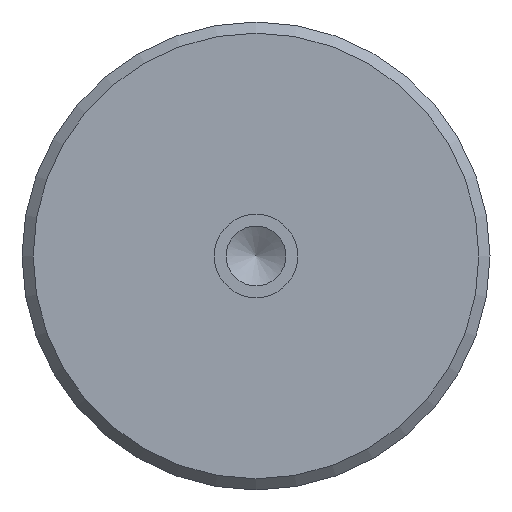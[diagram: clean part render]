
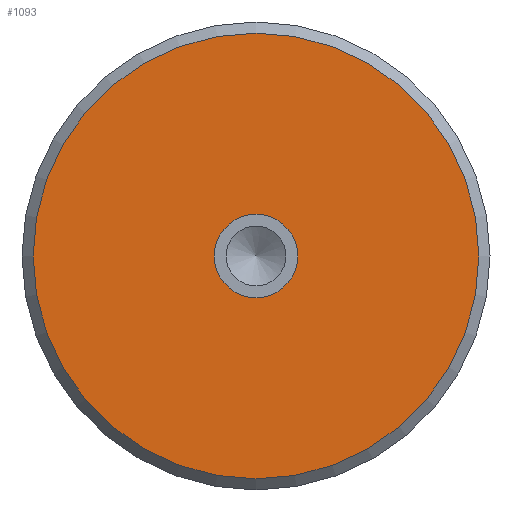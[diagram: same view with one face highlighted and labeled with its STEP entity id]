
A CAD part, front view. The second image highlights one B-rep face of the part: STEP entity #1093.
In plain terms, the highlighted planar face has unit normal (0, -1, 0).
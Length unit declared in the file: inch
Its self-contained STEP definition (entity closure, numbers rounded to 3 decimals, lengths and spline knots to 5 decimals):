
#58=FACE_BOUND('',#171,.T.);
#76=PLANE('',#1192);
#105=FACE_OUTER_BOUND('',#170,.T.);
#170=EDGE_LOOP('',(#726));
#171=EDGE_LOOP('',(#727,#728));
#336=CIRCLE('',#1182,0.14764);
#337=CIRCLE('',#1183,0.14764);
#340=CIRCLE('',#1188,0.7874);
#437=VERTEX_POINT('',#1727);
#438=VERTEX_POINT('',#1728);
#441=VERTEX_POINT('',#1739);
#548=EDGE_CURVE('',#437,#438,#336,.T.);
#549=EDGE_CURVE('',#438,#437,#337,.T.);
#555=EDGE_CURVE('',#441,#441,#340,.T.);
#726=ORIENTED_EDGE('',*,*,#555,.F.);
#727=ORIENTED_EDGE('',*,*,#548,.T.);
#728=ORIENTED_EDGE('',*,*,#549,.T.);
#1093=ADVANCED_FACE('',(#105,#58),#76,.F.);
#1182=AXIS2_PLACEMENT_3D('',#1729,#1357,#1358);
#1183=AXIS2_PLACEMENT_3D('',#1730,#1359,#1360);
#1188=AXIS2_PLACEMENT_3D('',#1741,#1372,#1373);
#1192=AXIS2_PLACEMENT_3D('',#1748,#1381,#1382);
#1357=DIRECTION('center_axis',(0.,1.,0.));
#1358=DIRECTION('ref_axis',(1.,0.,0.));
#1359=DIRECTION('center_axis',(0.,1.,0.));
#1360=DIRECTION('ref_axis',(1.,0.,0.));
#1372=DIRECTION('center_axis',(0.,1.,0.));
#1373=DIRECTION('ref_axis',(1.,0.,0.));
#1381=DIRECTION('center_axis',(0.,1.,0.));
#1382=DIRECTION('ref_axis',(0.,0.,1.));
#1727=CARTESIAN_POINT('',(-1.78698,-0.58165,-1.26944));
#1728=CARTESIAN_POINT('',(-2.08226,-0.58165,-1.26944));
#1729=CARTESIAN_POINT('Origin',(-1.93462,-0.58165,-1.26944));
#1730=CARTESIAN_POINT('Origin',(-1.93462,-0.58165,-1.26944));
#1739=CARTESIAN_POINT('',(-2.72202,-0.58165,-1.26944));
#1741=CARTESIAN_POINT('Origin',(-1.93462,-0.58165,-1.26944));
#1748=CARTESIAN_POINT('Origin',(-1.93462,-0.58165,-1.26944));
